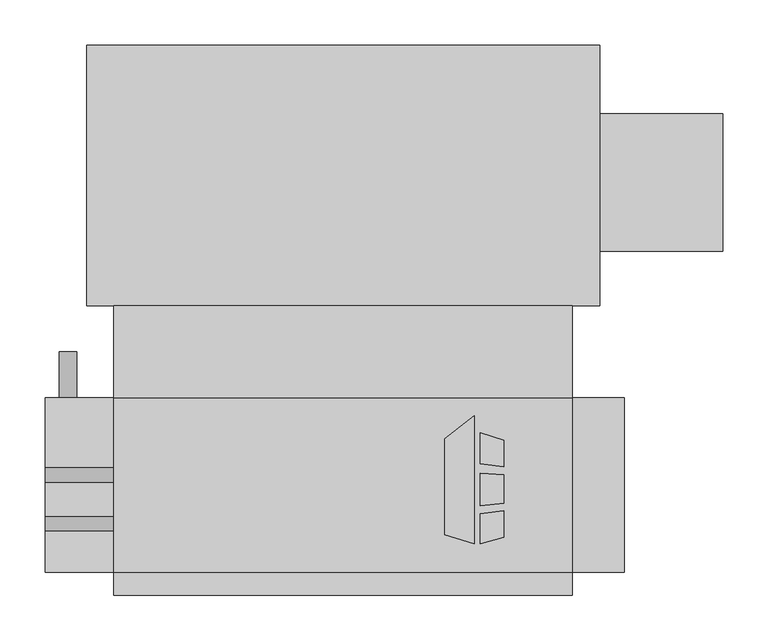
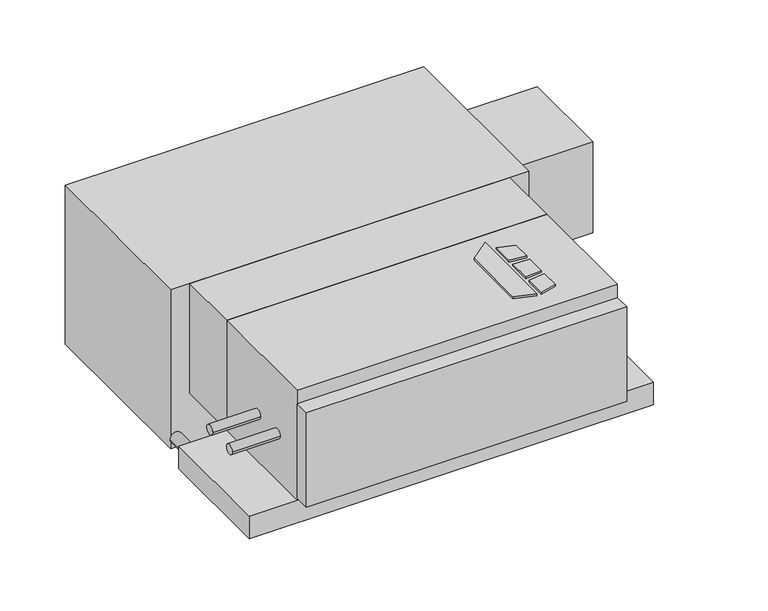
"""IFC4 building model written with IfcOpenShell, lengths in millimetres: proxy geometry, Concealed_Horizontal_Fan_Coil_Unit_With_Plenum_-_CPY_-_IEC_-_2-Pipe_Cool-EHeat_LH_2022 : Size 03 - 277v/60Hz/1Ph - 4 Row 3.0kW."""

from ifc_helpers import new_model, si_unit, point, frame, frame_2d, origin, origin_with_axes, place, context, project, spatial, polyline, circle_curve, trimmed, segment, composite_curve, outline, extrude, source, transform, mapped, element, save


def mechanical_equipment_180d3f21(model_context):
    return source(origin(), model_context, "Body", "SweptSolid", [
        extrude(outline(polyline([(264.8019761, -186.6953476), (297.3602728, -161.2580184), (297.3602728, -303.2125), (264.8019761, -292.9929201), (264.8019761, -186.6953476)])), origin_with_axes(), (0.0, 0.0, 1.0), 3.175),
        extrude(outline(polyline([(304.1186058, -214.567352), (304.1186058, -180.0874379), (330.2, -188.2740115), (330.2, -217.7697446), (304.1186058, -214.567352)])), origin_with_axes(), (0.0, 0.0, 1.0), 3.175),
        extrude(outline(polyline([(330.2, -296.2240115), (304.1186058, -303.2125), (304.1186058, -269.9911996), (330.2, -266.4493564), (330.2, -296.2240115)])), origin_with_axes(), (0.0, 0.0, 1.0), 3.175),
        extrude(outline(polyline([(330.2, -226.8513277), (330.2, -258.101483), (304.1186058, -260.842748), (304.1186058, -224.9850378), (330.2, -226.8513277)])), origin_with_axes(), (0.0, 0.0, 1.0), 3.175),
        extrude(outline(composite_curve([segment(trimmed(circle_curve(frame_2d((-280.9875, -104.775)), 7.9375), [point((-288.925, -104.775))], [point((-273.05, -104.775))], False, "CARTESIAN"), True, "CONTINUOUS"), segment(trimmed(circle_curve(frame_2d((-280.9875, -104.775)), 7.9375), [point((-273.05, -104.775))], [point((-288.925, -104.775))], False, "CARTESIAN"), True, "CONTINUOUS")], self_intersect=False)), frame((-177.8, 0.0, 0.0), z_axis=(1.0, 0.0, 0.0), x_axis=(0.0, 1.0, 0.0)), (0.0, 0.0, 1.0), 76.2),
        extrude(outline(composite_curve([segment(trimmed(circle_curve(frame_2d((-227.0125, -104.775)), 7.9375), [point((-234.95, -104.775))], [point((-219.075, -104.775))], False, "CARTESIAN"), True, "CONTINUOUS"), segment(trimmed(circle_curve(frame_2d((-227.0125, -104.775)), 7.9375), [point((-219.075, -104.775))], [point((-234.95, -104.775))], False, "CARTESIAN"), True, "CONTINUOUS")], self_intersect=False)), frame((-177.8, 0.0, 0.0), z_axis=(1.0, 0.0, 0.0), x_axis=(0.0, 1.0, 0.0)), (0.0, 0.0, 1.0), 76.2),
        extrude(outline(composite_curve([segment(trimmed(circle_curve(frame_2d((-209.55, -152.4)), 9.525), [point((-209.55, -161.925))], [point((-209.55, -142.875))], False, "CARTESIAN"), True, "CONTINUOUS"), segment(trimmed(circle_curve(frame_2d((-209.55, -152.4)), 9.525), [point((-209.55, -142.875))], [point((-209.55, -161.925))], False, "CARTESIAN"), True, "CONTINUOUS")], self_intersect=False)), frame((0.0, -141.2875, 0.0), z_axis=(0.0, 1.0, 0.0), x_axis=(0.0, 0.0, 1.0)), (0.0, 0.0, 1.0), 50.8),
        extrude(outline(polyline([(-101.6, -39.6875), (406.4, -39.6875), (406.4, -141.2875), (-101.6, -141.2875), (-101.6, -39.6875)])), frame((0.0, 0.0, -184.15), z_axis=(0.0, 0.0, 1.0), x_axis=(1.0, 0.0, 0.0)), (0.0, 0.0, 1.0), 184.15),
        extrude(outline(polyline([(406.4, -360.3625), (-101.6, -360.3625), (-101.6, -334.9625), (406.4, -334.9625), (406.4, -360.3625)])), frame((0.0, 0.0, -180.975), z_axis=(0.0, 0.0, 1.0), x_axis=(1.0, 0.0, 0.0)), (0.0, 0.0, 1.0), 158.75),
        extrude(outline(polyline([(573.0875, 173.0375), (573.0875, 20.6375), (436.5625, 20.6375), (436.5625, 173.0375), (573.0875, 173.0375)])), frame((0.0, 0.0, -187.325), z_axis=(0.0, 0.0, 1.0), x_axis=(1.0, 0.0, 0.0)), (0.0, 0.0, 1.0), 152.4),
        extrude(outline(polyline([(-131.7625, 249.2375), (436.5625, 249.2375), (436.5625, -39.6875), (-131.7625, -39.6875), (-131.7625, 249.2375)])), frame((0.0, 0.0, -266.7), z_axis=(0.0, 0.0, 1.0), x_axis=(1.0, 0.0, 0.0)), (0.0, 0.0, 1.0), 266.7),
        extrude(outline(polyline([(406.4, -141.2875), (406.4, -334.9625), (-101.6, -334.9625), (-101.6, -141.2875), (406.4, -141.2875)])), frame((0.0, 0.0, -184.15), z_axis=(0.0, 0.0, 1.0), x_axis=(1.0, 0.0, 0.0)), (0.0, 0.0, 1.0), 184.15),
        extrude(outline(polyline([(463.55, -141.2875), (463.55, -334.9625), (-177.8, -334.9625), (-177.8, -141.2875), (463.55, -141.2875)])), frame((0.0, 0.0, -222.25), z_axis=(0.0, 0.0, 1.0), x_axis=(1.0, 0.0, 0.0)), (0.0, 0.0, 1.0), 38.1),
    ])


if __name__ == "__main__":
    model = new_model("IFC4")
    model_context = context("Model", 3, world=origin())
    ifc_project = project(units=[si_unit("LENGTHUNIT", "METRE", prefix="MILLI")], contexts=[model_context])
    site = spatial("IfcSite", under=ifc_project)
    building = spatial("IfcBuilding", under=site)
    placement = place(None, origin())
    mechanical_equipment_shape = mechanical_equipment_180d3f21(model_context)
    element("IfcBuildingElementProxy", 1, Name="Concealed_Horizontal_Fan_Coil_Unit_With_Plenum_-_CPY_-_IEC_-_2-Pipe_Cool-EHeat_LH_2022 : Size 03 - 277v/60Hz/1Ph - 4 Row 3.0kW", ObjectType="Concealed_Horizontal_Fan_Coil_Unit_With_Plenum_-_CPY_-_IEC_-_2-Pipe_Cool-EHeat_LH_2022 : Size 03 - 277v/60Hz/1Ph - 4 Row 3.0kW", at=placement, inside=building, context=model_context, shape_type="MappedRepresentation", body=[
        mapped(mechanical_equipment_shape, transform((0.0, 0.0, 0.0), x_axis=(1.0, 0.0, 0.0), y_axis=(0.0, 1.0, 0.0), z_axis=(0.0, 0.0, 1.0))),
    ])
    save(model, "model.ifc")
